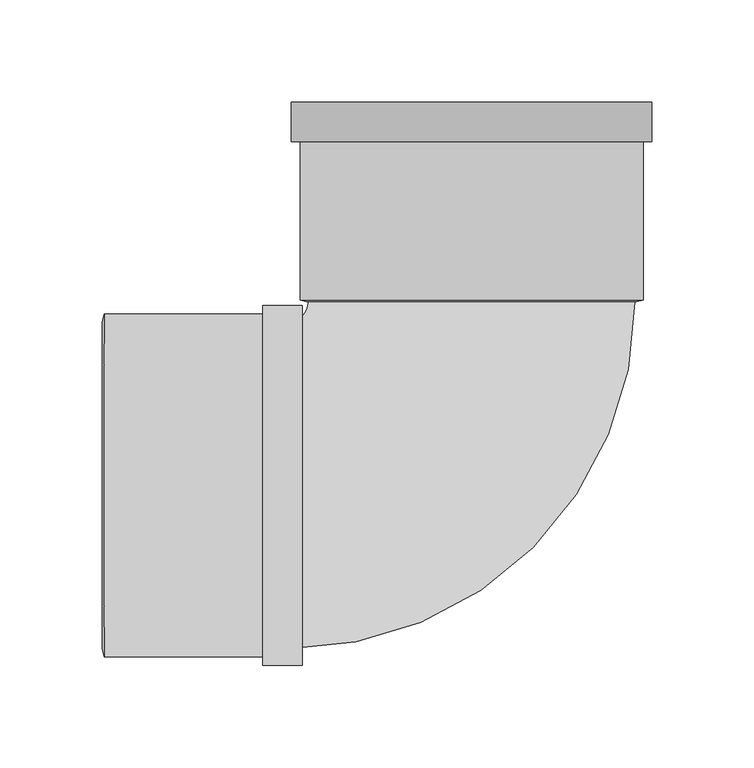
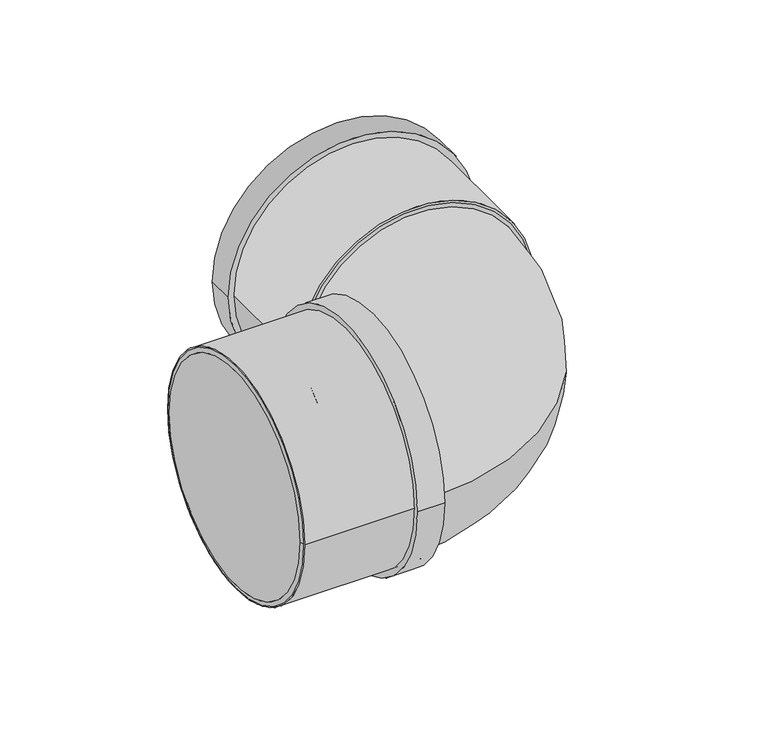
"""IFC4 building model written with IfcOpenShell, lengths in millimetres: pipe fitting geometry, Superdrain SK Bend_Composite 2x45 : Superdrain SK Bend_Composite 2x45."""

from ifc_helpers import new_model, si_unit, point, frame, origin, origin_2d, place, context, project, spatial, polyline, circle_curve, ellipse_curve, trimmed, segment, composite_curve, outline, extrude, source, transform, mapped, element, save
from ifc_brep_helpers import plane_surface, revolved_surface, advanced_brep


def pipe_fitting_f32bca7c(model_context):
    return source(origin(), model_context, "Body", "SolidModel", [
        extrude(outline(composite_curve([segment(trimmed(circle_curve(origin_2d(), 84.0), [point((84.0, 0.0))], [point((-84.0, 0.0))], False, "CARTESIAN"), True, "CONTINUOUS"), segment(trimmed(circle_curve(origin_2d(), 84.0), [point((-84.0, 0.0))], [point((84.0, 0.0))], False, "CARTESIAN"), True, "CONTINUOUS")], self_intersect=False), holes=[composite_curve([segment(trimmed(circle_curve(origin_2d(), 80.0), [point((80.0, 0.0))], [point((-80.0, 0.0))], True, "CARTESIAN"), True, "CONTINUOUS"), segment(trimmed(circle_curve(origin_2d(), 80.0), [point((-80.0, 0.0))], [point((80.0, 0.0))], True, "CARTESIAN"), True, "CONTINUOUS")], self_intersect=False)]), frame((-180.0, 0.0, 0.0), z_axis=(1.0, 0.0, 0.0), x_axis=(0.0, 1.0, 0.0)), (0.0, 0.0, 1.0), 97.0),
        extrude(outline(composite_curve([segment(trimmed(circle_curve(origin_2d(), 88.2), [point((88.2, 0.0))], [point((-88.2, 0.0))], False, "CARTESIAN"), True, "CONTINUOUS"), segment(trimmed(circle_curve(origin_2d(), 88.2), [point((-88.2, 0.0))], [point((88.2, 0.0))], False, "CARTESIAN"), True, "CONTINUOUS")], self_intersect=False), holes=[composite_curve([segment(trimmed(circle_curve(origin_2d(), 80.0), [point((80.0, 0.0))], [point((-80.0, 0.0))], True, "CARTESIAN"), True, "CONTINUOUS"), segment(trimmed(circle_curve(origin_2d(), 80.0), [point((-80.0, 0.0))], [point((80.0, 0.0))], True, "CARTESIAN"), True, "CONTINUOUS")], self_intersect=False)]), frame((-102.4, 0.0, 0.0), z_axis=(1.0, 0.0, 0.0), x_axis=(0.0, 1.0, 0.0)), (0.0, 0.0, 1.0), 19.4),
        advanced_brep(
        [(-181.0, 80.0, 0.0), (-181.0, -80.0, 0.0), (-180.0, 84.0, 0.0), (-180.0, -84.0, 0.0)],
        [
            (0, 1, circle_curve(frame((-181.0, 0.0, 0.0), z_axis=(-1.0, 0.0, 0.0), x_axis=(0.0, 1.0, 0.0)), 80.0)),
            (1, 0, circle_curve(frame((-181.0, 0.0, 0.0), z_axis=(-1.0, 0.0, 0.0), x_axis=(0.0, -1.0, 0.0)), 80.0)),
            (2, 3, circle_curve(frame((-180.0, 0.0, 0.0), z_axis=(1.0, 0.0, 0.0), x_axis=(0.0, -1.0, 0.0)), 84.0)),
            (3, 2, circle_curve(frame((-180.0, 0.0, 0.0), z_axis=(1.0, 0.0, 0.0), x_axis=(0.0, 1.0, 0.0)), 84.0)),
            (3, 1),
            (0, 2),
        ],
        [
            plane_surface(frame((-181.0, 0.0, 0.0), z_axis=(-1.0, 0.0, 0.0), x_axis=(0.0, 0.0, -1.0))),
            plane_surface(frame((-180.0, 0.0, 0.0), z_axis=(1.0, 0.0, 0.0), x_axis=(0.0, 0.0, -1.0))),
            revolved_surface(polyline([(-181.0, 80.0, 0.0), (-180.0, 84.0, 0.0)]), (-201.0, 0.0, 0.0), (1.0, 0.0, 0.0)),
            revolved_surface(polyline([(-181.0, -80.0, 0.0), (-180.0, -84.0, 0.0)]), (-201.0, 0.0, 0.0), (1.0, 0.0, 0.0)),
        ],
        [
            (0, [[1, 2]]),
            (1, [[3, 4]]),
            (2, [[-4, 5, -1, 6]]),
            (3, [[-3, -6, -2, -5]]),
        ],
    ),
        advanced_brep(
        [(80.0, 90.0, 0.0), (-80.0, 90.0, 0.0), (-90.0, -80.0, 0.0), (-90.0, 80.0, 0.0)],
        [
            (0, 1, circle_curve(frame((0.0, 90.0, 0.0), z_axis=(0.0, 1.0, 0.0), x_axis=(-1.0, 0.0, 0.0)), 80.0)),
            (1, 0, circle_curve(frame((0.0, 90.0, 0.0), z_axis=(0.0, 1.0, 0.0), x_axis=(-1.0, 0.0, 0.0)), 80.0)),
            (2, 3, circle_curve(frame((-90.0, 0.0, 0.0), z_axis=(-1.0, 0.0, 0.0), x_axis=(0.0, 1.0, 0.0)), 80.0)),
            (3, 2, circle_curve(frame((-90.0, 0.0, 0.0), z_axis=(-1.0, 0.0, 0.0), x_axis=(0.0, 1.0, 0.0)), 80.0)),
            (3, 1, circle_curve(frame((-90.0, 90.0, 0.0), z_axis=(0.0, 0.0, 1.0), x_axis=(1.0, 0.0, 0.0)), 10.0)),
            (0, 2, circle_curve(frame((-90.0, 90.0, 0.0), z_axis=(0.0, 0.0, -1.0), x_axis=(1.0, 0.0, 0.0)), 170.0)),
        ],
        [
            plane_surface(frame((0.0, 90.0, 0.0), z_axis=(0.0, 1.0, 0.0), x_axis=(0.0, 0.0, -1.0))),
            plane_surface(frame((-90.0, 0.0, 0.0), z_axis=(-1.0, 0.0, 0.0), x_axis=(0.0, 0.0, -1.0))),
            revolved_surface(trimmed(ellipse_curve(frame((0.0, 90.0, 0.0), z_axis=(0.0, -1.0, 0.0), x_axis=(-1.0, 0.0, 0.0)), 80.0, 80.0), [point((-80.0, 90.0, 0.0))], [point((80.0, 90.0, 0.0))], True, "CARTESIAN"), (-90.0, 90.0, 0.0), (0.0, 0.0, 1.0)),
            revolved_surface(trimmed(ellipse_curve(frame((0.0, 90.0, 0.0), z_axis=(0.0, -1.0, 0.0), x_axis=(-1.0, 0.0, 0.0)), 80.0, 80.0), [point((80.0, 90.0, 0.0))], [point((-80.0, 90.0, 0.0))], True, "CARTESIAN"), (-90.0, 90.0, 0.0), (0.0, 0.0, 1.0)),
        ],
        [
            (0, [[1, 2]]),
            (1, [[3, 4]]),
            (2, [[-4, 5, -1, 6]]),
            (3, [[-3, -6, -2, -5]]),
        ],
    ),
        extrude(outline(composite_curve([segment(trimmed(circle_curve(origin_2d(), 84.0), [point((0.0, 84.0))], [point((0.0, -84.0))], False, "CARTESIAN"), True, "CONTINUOUS"), segment(trimmed(circle_curve(origin_2d(), 84.0), [point((0.0, -84.0))], [point((0.0, 84.0))], False, "CARTESIAN"), True, "CONTINUOUS")], self_intersect=False), holes=[composite_curve([segment(trimmed(circle_curve(origin_2d(), 80.0), [point((0.0, 80.0))], [point((0.0, -80.0))], True, "CARTESIAN"), True, "CONTINUOUS"), segment(trimmed(circle_curve(origin_2d(), 80.0), [point((0.0, -80.0))], [point((0.0, 80.0))], True, "CARTESIAN"), True, "CONTINUOUS")], self_intersect=False)]), frame((0.0, 91.0, 0.0), z_axis=(0.0, 1.0, 0.0), x_axis=(0.0, 0.0, 1.0)), (0.0, 0.0, 1.0), 97.0),
        extrude(outline(composite_curve([segment(trimmed(circle_curve(origin_2d(), 88.2), [point((0.0, -88.2))], [point((0.0, 88.2))], False, "CARTESIAN"), True, "CONTINUOUS"), segment(trimmed(circle_curve(origin_2d(), 88.2), [point((0.0, 88.2))], [point((0.0, -88.2))], False, "CARTESIAN"), True, "CONTINUOUS")], self_intersect=False), holes=[composite_curve([segment(trimmed(circle_curve(origin_2d(), 80.0), [point((0.0, -80.0))], [point((0.0, 80.0))], True, "CARTESIAN"), True, "CONTINUOUS"), segment(trimmed(circle_curve(origin_2d(), 80.0), [point((0.0, 80.0))], [point((0.0, -80.0))], True, "CARTESIAN"), True, "CONTINUOUS")], self_intersect=False)]), frame((0.0, 168.6, 0.0), z_axis=(0.0, 1.0, 0.0), x_axis=(0.0, 0.0, 1.0)), (0.0, 0.0, 1.0), 19.4),
        advanced_brep(
        [(84.0, 91.0, 0.0), (-84.0, 91.0, 0.0), (80.0, 90.0, 0.0), (-80.0, 90.0, 0.0)],
        [
            (0, 1, circle_curve(frame((0.0, 91.0, 0.0), z_axis=(0.0, 1.0, 0.0), x_axis=(1.0, 0.0, 0.0)), 84.0)),
            (1, 0, circle_curve(frame((0.0, 91.0, 0.0), z_axis=(0.0, 1.0, 0.0), x_axis=(-1.0, 0.0, 0.0)), 84.0)),
            (2, 3, circle_curve(frame((0.0, 90.0, 0.0), z_axis=(0.0, -1.0, 0.0), x_axis=(-1.0, 0.0, 0.0)), 80.0)),
            (3, 2, circle_curve(frame((0.0, 90.0, 0.0), z_axis=(0.0, -1.0, 0.0), x_axis=(1.0, 0.0, 0.0)), 80.0)),
            (3, 1),
            (0, 2),
        ],
        [
            plane_surface(frame((0.0, 91.0, 0.0), z_axis=(0.0, 1.0, 0.0), x_axis=(0.0, 0.0, -1.0))),
            plane_surface(frame((0.0, 90.0, 0.0), z_axis=(0.0, -1.0, 0.0), x_axis=(0.0, 0.0, -1.0))),
            revolved_surface(polyline([(-80.0, 90.0, 0.0), (-84.0, 91.0, 0.0)]), (0.0, 70.0, 0.0), (0.0, 1.0, 0.0)),
            revolved_surface(polyline([(80.0, 90.0, 0.0), (84.0, 91.0, 0.0)]), (0.0, 70.0, 0.0), (0.0, 1.0, 0.0)),
        ],
        [
            (0, [[1, 2]]),
            (1, [[3, 4]]),
            (2, [[-4, 5, -1, 6]]),
            (3, [[-3, -6, -2, -5]]),
        ],
    ),
        extrude(outline(composite_curve([segment(trimmed(circle_curve(origin_2d(), 80.0), [point((-80.0, 0.0))], [point((80.0, 0.0))], False, "CARTESIAN"), True, "CONTINUOUS"), segment(trimmed(circle_curve(origin_2d(), 80.0), [point((80.0, 0.0))], [point((-80.0, 0.0))], False, "CARTESIAN"), True, "CONTINUOUS")], self_intersect=False)), frame((-180.0, 0.0, 0.0), z_axis=(1.0, 0.0, 0.0), x_axis=(0.0, 1.0, 0.0)), (0.0, 0.0, 1.0), 90.0),
    ])


if __name__ == "__main__":
    model = new_model("IFC4")
    model_context = context("Model", 3, world=origin())
    ifc_project = project(units=[si_unit("LENGTHUNIT", "METRE", prefix="MILLI")], contexts=[model_context])
    site = spatial("IfcSite", under=ifc_project)
    building = spatial("IfcBuilding", under=site)
    placement = place(None, origin())
    pipe_fitting_shape = pipe_fitting_f32bca7c(model_context)
    element("IfcPipeFitting", 1, ObjectType="Superdrain SK Bend_Composite 2x45 : Superdrain SK Bend_Composite 2x45", at=placement, inside=building, context=model_context, shape_type="MappedRepresentation", body=[
        mapped(pipe_fitting_shape, transform((0.0, 0.0, 0.0), x_axis=(1.0, 0.0, 0.0), y_axis=(0.0, 1.0, 0.0), z_axis=(0.0, 0.0, 1.0))),
    ])
    save(model, "model.ifc")
